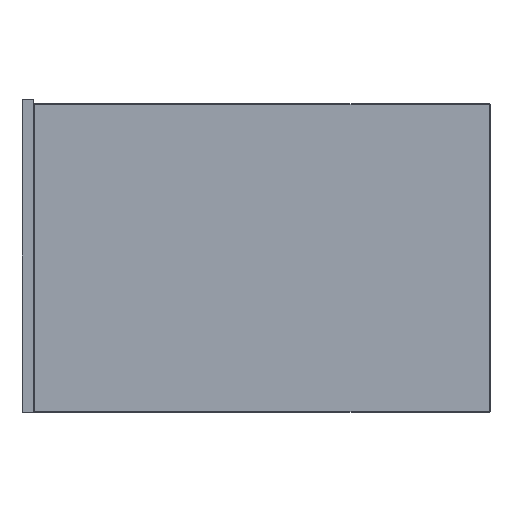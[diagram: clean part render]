
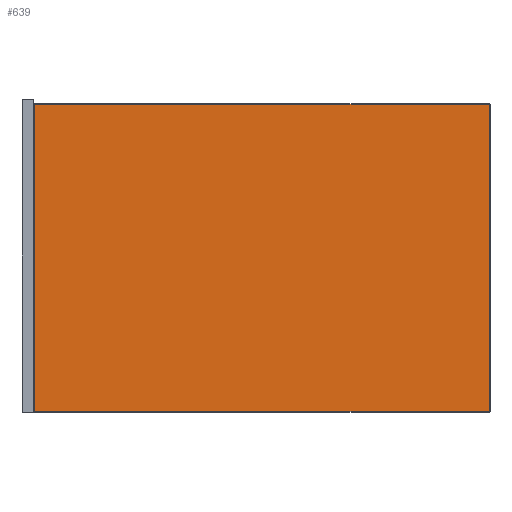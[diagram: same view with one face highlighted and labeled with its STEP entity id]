
A CAD part, left-side view. The second image highlights one B-rep face of the part: STEP entity #639.
In plain terms, the highlighted planar face has unit normal (-1, 0, 0) as drawn and (0, 0, -1) by its records, which use the part's own axes.
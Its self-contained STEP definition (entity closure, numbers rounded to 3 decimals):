
#206 = LINE ( 'NONE', #3348, #810 ) ;
#225 = ORIENTED_EDGE ( 'NONE', *, *, #1172, .T. ) ;
#316 = EDGE_CURVE ( 'NONE', #3056, #840, #1745, .T. ) ;
#430 = VECTOR ( 'NONE', #2922, 1000. ) ;
#639 = ADVANCED_FACE ( 'NONE', ( #2166 ), #3266, .T. ) ;
#796 = ORIENTED_EDGE ( 'NONE', *, *, #2436, .T. ) ;
#810 = VECTOR ( 'NONE', #1184, 1000. ) ;
#834 = ORIENTED_EDGE ( 'NONE', *, *, #316, .T. ) ;
#840 = VERTEX_POINT ( 'NONE', #1992 ) ;
#851 = CARTESIAN_POINT ( 'NONE',  ( 196.5, 291., 0. ) ) ;
#917 = DIRECTION ( 'NONE',  ( 0., 0., -1. ) ) ;
#930 = LINE ( 'NONE', #1979, #2392 ) ;
#1093 = LINE ( 'NONE', #2107, #430 ) ;
#1172 = EDGE_CURVE ( 'NONE', #3340, #3011, #206, .T. ) ;
#1184 = DIRECTION ( 'NONE',  ( 1., 0., 0. ) ) ;
#1185 = VECTOR ( 'NONE', #1761, 1000. ) ;
#1276 = AXIS2_PLACEMENT_3D ( 'NONE', #3281, #917, #3310 ) ;
#1441 = ORIENTED_EDGE ( 'NONE', *, *, #2155, .T. ) ;
#1461 = DIRECTION ( 'NONE',  ( 0., 1., 0. ) ) ;
#1745 = LINE ( 'NONE', #2026, #1185 ) ;
#1761 = DIRECTION ( 'NONE',  ( -1., 0., 0. ) ) ;
#1979 = CARTESIAN_POINT ( 'NONE',  ( -196.5, 292., 0. ) ) ;
#1992 = CARTESIAN_POINT ( 'NONE',  ( -196.5, -291., 0. ) ) ;
#2026 = CARTESIAN_POINT ( 'NONE',  ( -197.5, -291., 0. ) ) ;
#2079 = CARTESIAN_POINT ( 'NONE',  ( -196.5, 291., 0. ) ) ;
#2107 = CARTESIAN_POINT ( 'NONE',  ( 196.5, -292., 0. ) ) ;
#2155 = EDGE_CURVE ( 'NONE', #3011, #3056, #1093, .T. ) ;
#2166 = FACE_OUTER_BOUND ( 'NONE', #3005, .T. ) ;
#2208 = CARTESIAN_POINT ( 'NONE',  ( 196.5, -291., 0. ) ) ;
#2392 = VECTOR ( 'NONE', #1461, 1000. ) ;
#2436 = EDGE_CURVE ( 'NONE', #840, #3340, #930, .T. ) ;
#2922 = DIRECTION ( 'NONE',  ( 0., -1., 0. ) ) ;
#3005 = EDGE_LOOP ( 'NONE', ( #796, #225, #1441, #834 ) ) ;
#3011 = VERTEX_POINT ( 'NONE', #851 ) ;
#3056 = VERTEX_POINT ( 'NONE', #2208 ) ;
#3266 = PLANE ( 'NONE',  #1276 ) ;
#3281 = CARTESIAN_POINT ( 'NONE',  ( 0., 0., 0. ) ) ;
#3310 = DIRECTION ( 'NONE',  ( -1., 0., 0. ) ) ;
#3340 = VERTEX_POINT ( 'NONE', #2079 ) ;
#3348 = CARTESIAN_POINT ( 'NONE',  ( 197.5, 291., 0. ) ) ;
